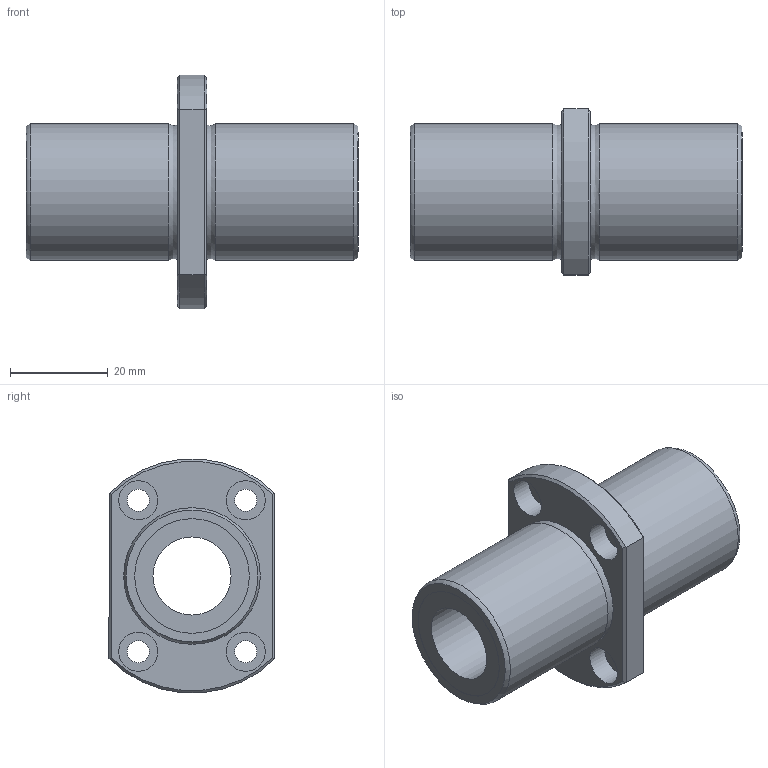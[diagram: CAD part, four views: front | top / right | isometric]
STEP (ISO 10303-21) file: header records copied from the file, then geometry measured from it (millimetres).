
FILE_DESCRIPTION((''),'2;1');
FILE_NAME('D:\製品 (図面)\カタログ用3D\リニアベアリング関連\STEP形式\LFDTC\LFDTC16B.stp','2010-06-04T08:40:21',('Tsuchiya'),(''),'Autodesk Inventor 10','Autodesk Inventor 10','');
FILE_SCHEMA(('AUTOMOTIVE_DESIGN { 1 0 10303 214 1 1 1 1 }'));
Length unit declared in the file: millimetre
Products named in the file (1): LFDTC16B
Bounding box: 68 x 34 x 47.82 mm (x, y, z)
Volume: 32217.8 mm3; surface area: 12604.1 mm2
Topology: 1 solids, 1 shells, 39 faces, 75 edges, 46 vertices
Faces by surface type: plane 16, cylinder 15, cone 4, torus 2, bspline 2
Full cylindrical faces by diameter (mm): 4.5 x4, 8 x4, 16 x1, 23.5 x2, 28 x2
Entity records: 1073 total; most frequent: CARTESIAN_POINT 292, DIRECTION 164, ORIENTED_EDGE 116, AXIS2_PLACEMENT_3D 76, EDGE_LOOP 74, EDGE_CURVE 58, VERTEX_POINT 46, FACE_OUTER_BOUND 39
